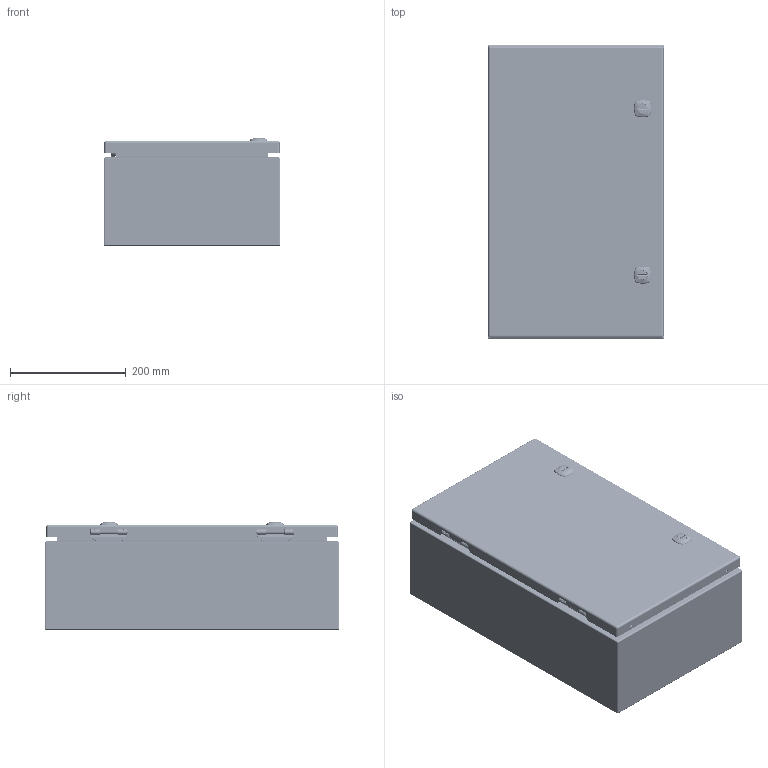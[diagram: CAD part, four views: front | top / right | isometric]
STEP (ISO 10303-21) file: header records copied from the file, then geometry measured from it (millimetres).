
FILE_DESCRIPTION(/* description */ ('5412ES 20" x 12" x 6" Assembly'),/* implementation_level */ '2;1');
FILE_NAME(/* name */ 'C:\Vault_Workspace\Inventor_Dwg\BoxCad\Result\5412ES201206\e-mail\3D\5412ES201206.stp',/* time_stamp */ '2022-11-22T14:21:12-05:00',/* author */ ('BoxCad'),/* organization */ (''),/* preprocessor_version */ 'ST-DEVELOPER v18.1',/* originating_system */ 'Autodesk Inventor 2020',/* authorisation */ '');
FILE_SCHEMA (('AUTOMOTIVE_DESIGN { 1 0 10303 214 3 1 1 }'));
Products named in the file (42): 5412ES201206; 5412ES201206B; 5412ES201206B-P; STK-Q-16005; STUD_M6 x 16mm; 5412ES201206C; 5412ES201206C-P; 5412ES201206G; STK-K-09800; STK-K-09800-2; STK-Q-33014; STK-Q-90398; STK-Q-40095; STK-Q-63410; STK-Q-16055; STK-Q-46020-20; STK-Q-07220-1; STK-Q-07220-2; STK-Q-07220-3; STK-Q-07220-4; STK-Q-07220-A; STK-Q-07220-B; STK-P-02400S; STK-S-00100; STK-K-12500-1; STK-K-12500-2; STK-Q-78111; STK-Q-78120; STK-Q-78145; STK-Q-03200; STK-Q-78141; STK-Q-90390; STK-Q-78160; STK-Q-04050-08-1; STK-Q-04050-08-2; STK-Q-04050-08-P; STK-A-01800; 5412ES201206IPK; STK-Q-07610; STK-Q-07310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
Assembly tree (77 placements, depth 4):
  5412ES201206
    5412ES201206B
      5412ES201206B-P
      STK-Q-16005  x4
      STK-P-02400S
      STUD_M6 x 16mm
    5412ES201206C
      5412ES201206C-P
      5412ES201206G
      STK-K-09800
        STK-Q-33014
        STK-Q-90398
        STK-Q-40095  x2
        STK-Q-63410  x2
      STK-K-09800-2
        STK-Q-33014
        STK-Q-90398
        STK-Q-40095  x2
        STK-Q-63410  x2
      STK-Q-16055  x4
      STK-Q-46020-20  x2
      STK-Q-07220-1
        STK-Q-07220-A
        STK-Q-07220-B
      STK-Q-07220-2
        STK-Q-07220-A
        STK-Q-07220-B
      STK-Q-07220-3
        STK-Q-07220-A
        STK-Q-07220-B
      STK-Q-07220-4
        STK-Q-07220-A
        STK-Q-07220-B
      STK-P-02400S
      STK-S-00100
      STK-K-12500-1
        STK-Q-78111
        STK-Q-78120
        STK-Q-78145
        STK-Q-03200
        STK-Q-78141
        STK-Q-90390
        STK-Q-78160
      STK-K-12500-2
        STK-Q-78111
        STK-Q-78120
        STK-Q-78145
        STK-Q-03200
        STK-Q-78141
        STK-Q-90390
        STK-Q-78160
    STK-Q-04050-08-1
      STK-Q-04050-08-P
    STK-Q-04050-08-2
      STK-Q-04050-08-P
    STK-A-01800
    5412ES201206IPK
      STK-Q-07610  x4
      STK-Q-07310  x4
    881SP2012G
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Bounding box: 304.87 x 508 x 185.55 mm (x, y, z)
Volume: 1341308.6 mm3; surface area: 1709628.7 mm2
Topology: 60 solids, 60 shells, 9606 faces, 25590 edges, 16115 vertices
Faces by surface type: bspline 3318, plane 2735, cylinder 2532, torus 669, sphere 216, cone 136
Full cylindrical faces by diameter (mm): 0 x1, 0.75 x9, 0.762 x9, 1 x8, 1.1 x8, 3.2 x4, 4.191 x32, 4.5 x4, 4.521 x8, 4.75 x2, 4.85 x16, 4.95 x4, 5 x4, 5.1 x36, 5.156 x4, 5.6 x2, 5.9 x29, 6.015 x32, 6.65 x4, 6.8 x4, 6.85 x16, 7.3 x2, 7.366 x4, 7.9 x8, 8 x12, 8.382 x2, 9.5 x4, 9.6 x2, 9.906 x4, 10 x2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
Entity records: 149414 total; most frequent: CARTESIAN_POINT 60278, ORIENTED_EDGE 20232, DIRECTION 15137, EDGE_CURVE 10116, VERTEX_POINT 6350, AXIS2_PLACEMENT_3D 5611, EDGE_LOOP 4166, FACE_OUTER_BOUND 3932
